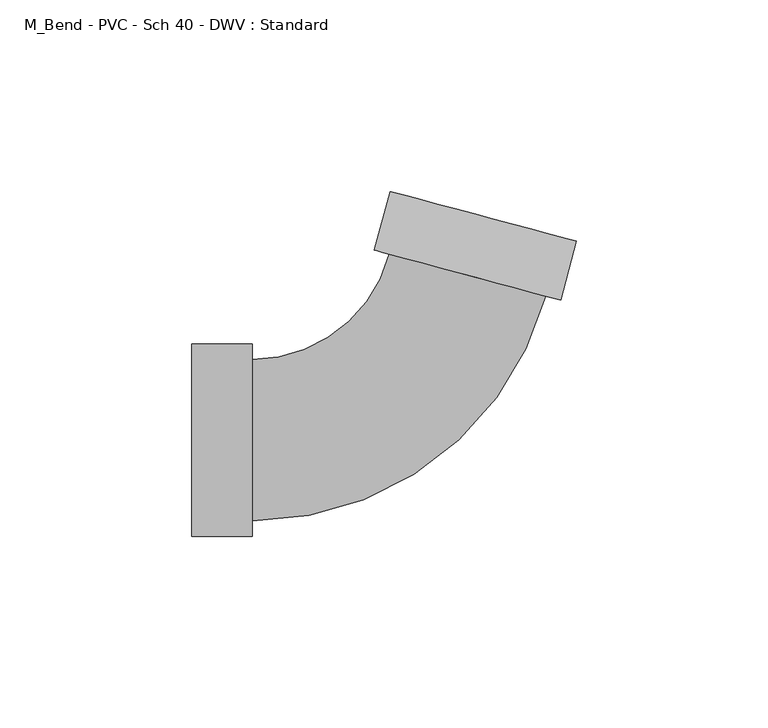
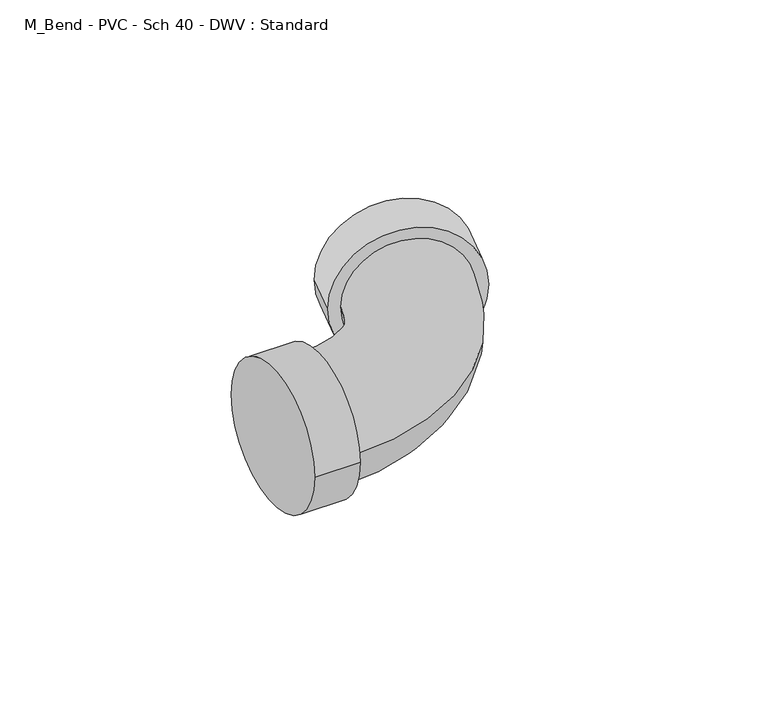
"""IFC4 building model written with IfcOpenShell, lengths in millimetres: pipe fitting geometry, M_Bend - PVC - Sch 40 - DWV : Standard."""

from ifc_helpers import new_model, si_unit, point, frame, origin, place, context, project, spatial, circle_curve, ellipse_curve, trimmed, source, transform, mapped, element, save
from ifc_brep_helpers import plane_surface, cylinder_surface, revolved_surface, advanced_brep


def m_bend_pvc_sch_40_dwv_standard_2cf6a8d3(model_context):
    return source(origin(), model_context, "Body", "AdvancedBrep", [
        advanced_brep(
        [(-60.5020625, -25.1591094, 0.0), (-60.5020625, 25.1591094, 0.0), (-44.6020625, -25.1591094, 0.0), (-44.6020625, 25.1591094, 0.0), (-44.6020625, -21.1000625, 0.0), (-44.6020625, 21.1000625, 0.0), (-8.8372321, 48.5433821, 0.0), (31.9249585, 37.621186, 0.0), (35.8456967, 36.5706274, 0.0), (-12.7579703, 49.5939407, 0.0), (39.9609196, 51.928848, 0.0), (-8.6427475, 64.9521614, 0.0)],
        [
            (0, 1, circle_curve(frame((-60.5020625, 0.0, 0.0), z_axis=(-1.0, 0.0, 0.0), x_axis=(0.0, 1.0, 0.0)), 25.1591094)),
            (1, 0, circle_curve(frame((-60.5020625, 0.0, 0.0), z_axis=(-1.0, 0.0, 0.0), x_axis=(0.0, 1.0, 0.0)), 25.1591094)),
            (2, 3, circle_curve(frame((-44.6020625, 0.0, 0.0), z_axis=(1.0, 0.0, 0.0), x_axis=(0.0, 1.0, 0.0)), 25.1591094)),
            (3, 2, circle_curve(frame((-44.6020625, 0.0, 0.0), z_axis=(1.0, 0.0, 0.0), x_axis=(0.0, 1.0, 0.0)), 25.1591094)),
            (4, 5, circle_curve(frame((-44.6020625, 0.0, 0.0), z_axis=(-1.0, 0.0, 0.0), x_axis=(0.0, 1.0, 0.0)), 21.1000625)),
            (5, 4, circle_curve(frame((-44.6020625, 0.0, 0.0), z_axis=(-1.0, 0.0, 0.0), x_axis=(0.0, 1.0, 0.0)), 21.1000625)),
            (0, 2),
            (3, 1),
            (6, 5, circle_curve(frame((-44.6020625, 58.1265395, 0.0), z_axis=(0.0, 0.0, -1.0), x_axis=(0.0, -1.0, 0.0)), 37.026477)),
            (4, 7, circle_curve(frame((-44.6020625, 58.1265395, 0.0), z_axis=(0.0, 0.0, 1.0), x_axis=(0.0, -1.0, 0.0)), 79.226602)),
            (7, 6, circle_curve(frame((11.5438632, 43.0822841, 0.0), z_axis=(-0.2588190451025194, -0.9659258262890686, 0.0), x_axis=(-0.9659258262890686, 0.2588190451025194, 0.0)), 21.1000625)),
            (6, 7, circle_curve(frame((11.5438632, 43.0822841, 0.0), z_axis=(-0.2588190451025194, -0.9659258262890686, 0.0), x_axis=(-0.9659258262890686, 0.2588190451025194, 0.0)), 21.1000625)),
            (8, 9, circle_curve(frame((11.5438632, 43.0822841, 0.0), z_axis=(-0.2588190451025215, -0.9659258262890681, 0.0), x_axis=(-0.9659258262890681, 0.2588190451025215, 0.0)), 25.1591094)),
            (9, 8, circle_curve(frame((11.5438632, 43.0822841, 0.0), z_axis=(-0.2588190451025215, -0.9659258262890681, 0.0), x_axis=(-0.9659258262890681, 0.2588190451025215, 0.0)), 25.1591094)),
            (10, 11, circle_curve(frame((15.659086, 58.4405047, 0.0), z_axis=(0.2588190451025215, 0.9659258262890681, 0.0), x_axis=(-0.9659258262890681, 0.2588190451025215, 0.0)), 25.1591094)),
            (11, 10, circle_curve(frame((15.659086, 58.4405047, 0.0), z_axis=(0.2588190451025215, 0.9659258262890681, 0.0), x_axis=(-0.9659258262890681, 0.2588190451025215, 0.0)), 25.1591094)),
            (8, 10),
            (11, 9),
        ],
        [
            plane_surface(frame((-60.5020625, 0.0, 0.0), z_axis=(-1.0, 0.0, 0.0), x_axis=(0.0, 0.0, 1.0))),
            plane_surface(frame((-44.6020625, 0.0, 0.0), z_axis=(1.0, 0.0, 0.0), x_axis=(0.0, 0.0, 1.0))),
            cylinder_surface(frame((-60.5020625, 0.0, 0.0), z_axis=(-1.0, 0.0, 0.0), x_axis=(0.0, 1.0, 0.0)), 25.1591094),
            revolved_surface(trimmed(ellipse_curve(frame((-44.6020625, 0.0, 0.0), z_axis=(-1.0, 0.0, 0.0), x_axis=(0.0, 1.0, 0.0)), 21.1000625, 21.1000625), [point((-44.6020625, -21.1000625, 0.0))], [point((-44.6020625, 21.1000625, 0.0))], True, "CARTESIAN"), (-44.6020625, 58.1265395, 0.0), (0.0, 0.0, 1.0)),
            revolved_surface(trimmed(ellipse_curve(frame((-44.6020625, 0.0, 0.0), z_axis=(-1.0, 0.0, 0.0), x_axis=(0.0, 1.0, 0.0)), 21.1000625, 21.1000625), [point((-44.6020625, 21.1000625, 0.0))], [point((-44.6020625, -21.1000625, 0.0))], True, "CARTESIAN"), (-44.6020625, 58.1265395, 0.0), (0.0, 0.0, 1.0)),
            plane_surface(frame((11.5438632, 43.0822841, 0.0), z_axis=(-0.2588190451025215, -0.9659258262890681, 0.0), x_axis=(0.0, 0.0, 1.0))),
            plane_surface(frame((15.659086, 58.4405047, 0.0), z_axis=(0.2588190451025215, 0.9659258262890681, 0.0), x_axis=(0.0, 0.0, 1.0))),
            cylinder_surface(frame((11.5438632, 43.0822841, 0.0), z_axis=(-0.2588190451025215, -0.9659258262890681, 0.0), x_axis=(-0.9659258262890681, 0.2588190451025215, 0.0)), 25.1591094),
        ],
        [
            (0, [[1, 2]]),
            (1, [[3, 4], [5, 6]]),
            (2, [[-1, 7, -4, 8]]),
            (2, [[-2, -8, -3, -7]]),
            (3, [[9, -5, 10, 11]]),
            (4, [[-9, 12, -10, -6]]),
            (5, [[13, 14], [-11, -12]]),
            (6, [[15, 16]]),
            (7, [[-13, 17, -16, 18]]),
            (7, [[-14, -18, -15, -17]]),
        ],
    ),
    ])


if __name__ == "__main__":
    model = new_model("IFC4")
    model_context = context("Model", 3, world=origin())
    ifc_project = project(units=[si_unit("LENGTHUNIT", "METRE", prefix="MILLI")], contexts=[model_context])
    site = spatial("IfcSite", under=ifc_project)
    building = spatial("IfcBuilding", under=site)
    placement = place(None, origin())
    m_bend_pvc_sch_40_dwv_standard_shape = m_bend_pvc_sch_40_dwv_standard_2cf6a8d3(model_context)
    element("IfcPipeFitting", 1, ObjectType="M_Bend - PVC - Sch 40 - DWV : Standard", at=placement, inside=building, context=model_context, shape_type="MappedRepresentation", body=[
        mapped(m_bend_pvc_sch_40_dwv_standard_shape, transform((0.0, 0.0, 0.0), x_axis=(1.0, 0.0, 0.0), y_axis=(0.0, 1.0, 0.0), z_axis=(0.0, 0.0, 1.0))),
    ])
    save(model, "model.ifc")
